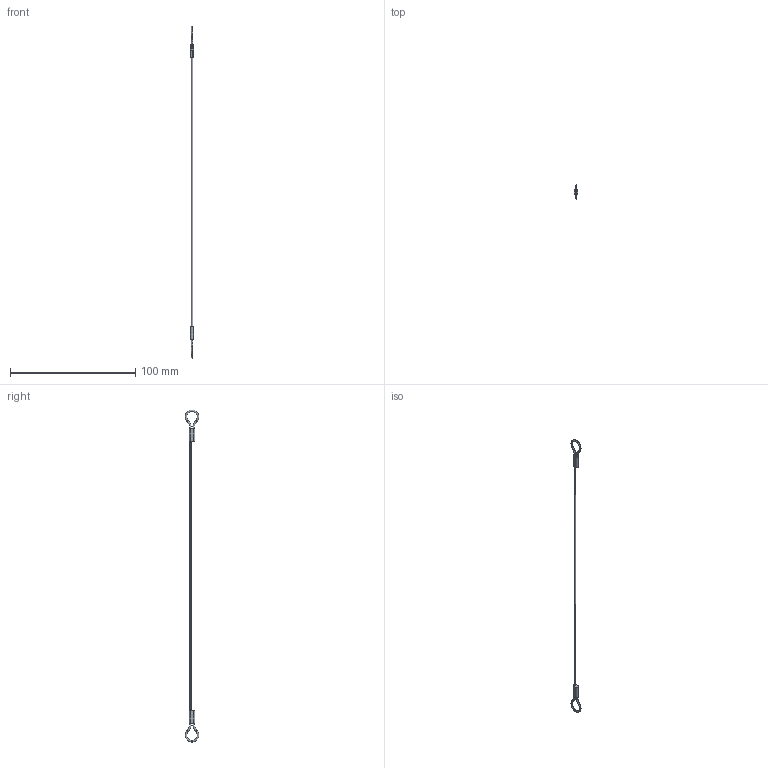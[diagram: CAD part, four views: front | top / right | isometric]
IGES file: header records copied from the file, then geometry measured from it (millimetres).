
Start section: SolidWorks IGES file using analytic representation for surfaces
Global section: file name: C:\Users\ianosborn\Desktop\LA1065_v2\LA1065_v2_20260320_IGES\LA1065.I04-254N1.igs; native system: SolidWorks 2019; preprocessor: SolidWorks 2019; author: IanOsborn; date: 260323.154215; units: millimetre
Bounding box: 2.4 x 10.78 x 264.77 mm (x, y, z)
Surface area: 1347.9 mm2 (no closed solid volume)
Topology: 0 solids, 0 shells, 30 faces, 336 edges, 336 vertices
Faces by surface type: bspline 22, revolution 8
